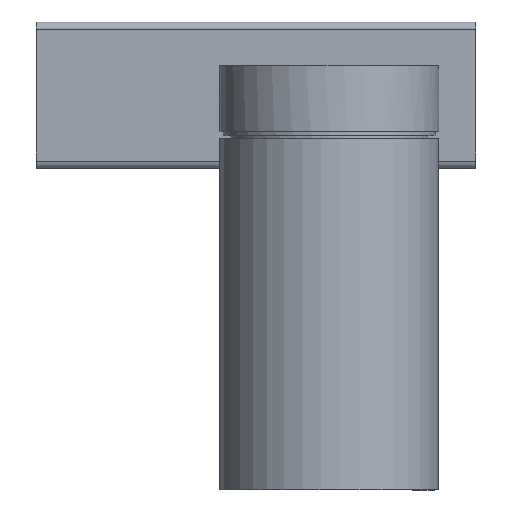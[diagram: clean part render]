
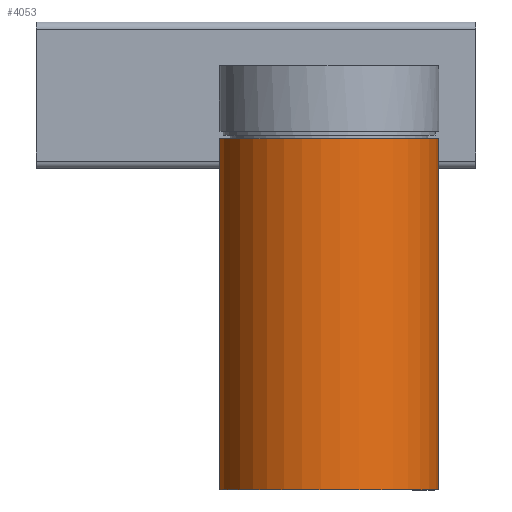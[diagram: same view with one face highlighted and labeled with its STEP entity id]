
A CAD part, front view. The second image highlights one B-rep face of the part: STEP entity #4053.
In plain terms, the highlighted cylindrical face has radius 30 mm (diameter 60 mm), a full revolution.
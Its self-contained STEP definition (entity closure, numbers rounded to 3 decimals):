
#189=CYLINDRICAL_SURFACE('',#4522,30.);
#422=FACE_OUTER_BOUND('',#690,.T.);
#690=EDGE_LOOP('',(#3439,#3440,#3441,#3442));
#892=CIRCLE('',#4521,30.);
#893=CIRCLE('',#4523,30.);
#1201=LINE('',#6957,#1509);
#1509=VECTOR('',#5702,30.);
#1844=VERTEX_POINT('',#6952);
#1845=VERTEX_POINT('',#6955);
#2376=EDGE_CURVE('',#1844,#1844,#892,.T.);
#2377=EDGE_CURVE('',#1845,#1845,#893,.T.);
#2378=EDGE_CURVE('',#1845,#1844,#1201,.T.);
#3439=ORIENTED_EDGE('',*,*,#2377,.F.);
#3440=ORIENTED_EDGE('',*,*,#2378,.T.);
#3441=ORIENTED_EDGE('',*,*,#2376,.F.);
#3442=ORIENTED_EDGE('',*,*,#2378,.F.);
#4053=ADVANCED_FACE('',(#422),#189,.T.);
#4521=AXIS2_PLACEMENT_3D('',#6953,#5696,#5697);
#4522=AXIS2_PLACEMENT_3D('',#6954,#5698,#5699);
#4523=AXIS2_PLACEMENT_3D('',#6956,#5700,#5701);
#5696=DIRECTION('center_axis',(0.,0.,
-1.));
#5697=DIRECTION('ref_axis',(-0.995,-0.1,0.));
#5698=DIRECTION('center_axis',(0.,0.,
1.));
#5699=DIRECTION('ref_axis',(-0.995,-0.1,0.));
#5700=DIRECTION('center_axis',(0.,0.,
1.));
#5701=DIRECTION('ref_axis',(-0.995,-0.1,0.));
#5702=DIRECTION('',(0.,0.,-1.));
#6952=CARTESIAN_POINT('',(49.849,-53.09,-107.9));
#6953=CARTESIAN_POINT('Origin',(20.,-56.1,-107.9));
#6954=CARTESIAN_POINT('Origin',(20.,-56.1,-59.9));
#6955=CARTESIAN_POINT('',(49.849,-53.09,-11.9));
#6956=CARTESIAN_POINT('Origin',(20.,-56.1,-11.9));
#6957=CARTESIAN_POINT('',(49.849,-53.09,-59.9));
